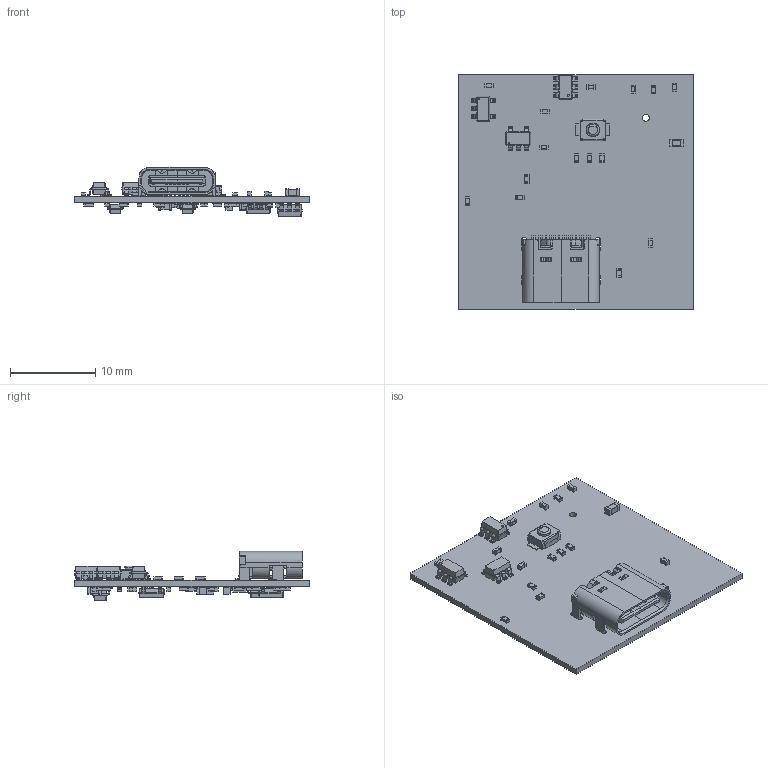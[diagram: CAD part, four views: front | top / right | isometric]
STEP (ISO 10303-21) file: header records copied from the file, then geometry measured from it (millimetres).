
FILE_DESCRIPTION(('KiCad electronic assembly'),'2;1');
FILE_NAME('current-native-pcba.step','2026-10-29T13:47:26',('Pcbnew'),( 'Kicad'),'Open CASCADE STEP processor 7.9','KiCad to STEP converter' ,'Unknown');
FILE_SCHEMA(('AUTOMOTIVE_DESIGN { 1 0 10303 214 1 1 1 1 }'));
Length unit declared in the file: millimetre
Products named in the file (26): current-native-pcba 1; R_0402_1005Metric; SW_SPST_B3U-1000P; C_0603_1608Metric; C_0402_1005Metric; USB_C_Receptacle_GCT_USB4105-xx-A_16P_TopMnt_Horizontal; USB_C_Receptacle_16P_TopMnt_Horizontal_GCT_USB4105-xx-A; SOT-23-5; SOT-23-6; LED_0402_1005Metric; SOT-23; Texas_DLH0010A_WSON-10-1EP_2.2x2mm_P0.4mm_EP0.9x1.5mm; SOT-23-8; SOT-666; SOT_666; pendant-review_PCB
Assembly tree (77 placements, depth 3):
  current-native-pcba 1
    R_0402_1005Metric  x30
      R_0402_1005Metric
    SW_SPST_B3U-1000P
      SW_SPST_B3U-1000P
    C_0603_1608Metric  x4
      C_0603_1608Metric
    C_0402_1005Metric  x18
      C_0402_1005Metric
    USB_C_Receptacle_GCT_USB4105-xx-A_16P_TopMnt_Horizontal
      USB_C_Receptacle_16P_TopMnt_Horizontal_GCT_USB4105-xx-A
    SOT-23-5  x2
      SOT-23-5
    SOT-23-6  x2
      SOT-23-6
    LED_0402_1005Metric
      LED_0402_1005Metric
    SOT-23  x2
      SOT-23
    Texas_DLH0010A_WSON-10-1EP_2.2x2mm_P0.4mm_EP0.9x1.5mm
      Texas_DLH0010A_WSON-10-1EP_2.2x2mm_P0.4mm_EP0.9x1.5mm
    SOT-23-8
      SOT-23-8
    SOT-666
      SOT_666
    pendant-review_PCB
Bounding box: 27.5 x 27.5 x 5.76 mm (x, y, z)
Volume: 734.7 mm3; surface area: 2509.4 mm2
Topology: 100 solids, 100 shells, 3040 faces, 7877 edges, 5069 vertices
Faces by surface type: plane 2088, cylinder 815, bspline 126, cone 8, sphere 2, torus 1
Full cylindrical faces by diameter (mm): 0.25 x1, 0.5 x2, 0.65 x2, 0.8 x1, 1.6 x1
Entity records: 55264 total; most frequent: CARTESIAN_POINT 8081, ORIENTED_EDGE 7426, DIRECTION 7044, EDGE_CURVE 3709, LINE 2994, VECTOR 2994, VERTEX_POINT 2358, AXIS2_PLACEMENT_3D 2025
